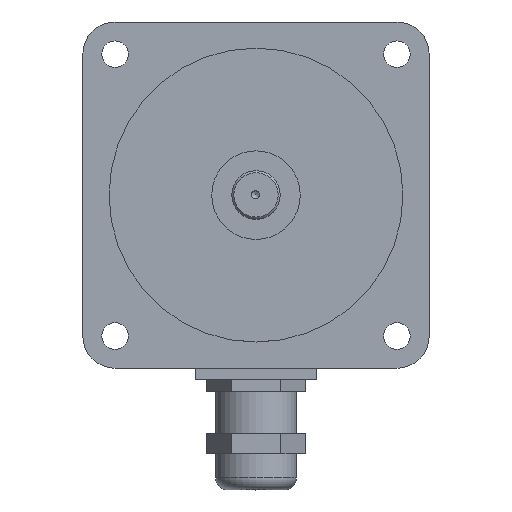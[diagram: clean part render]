
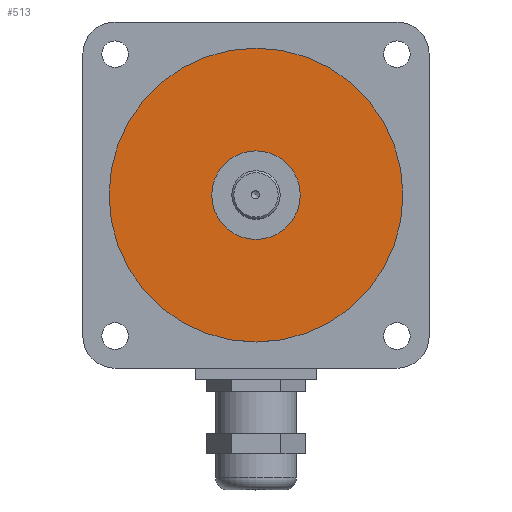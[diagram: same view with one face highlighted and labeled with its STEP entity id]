
A CAD part, top view. The second image highlights one B-rep face of the part: STEP entity #513.
In plain terms, the highlighted planar face has unit normal (0, 0, 1).
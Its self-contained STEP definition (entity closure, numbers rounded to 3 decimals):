
#450=CARTESIAN_POINT('',(-80.773,-89.811,117.505));
#451=VERTEX_POINT('',#450);
#452=CARTESIAN_POINT('',(-69.773,-89.811,117.505));
#453=DIRECTION('',(0.0,0.0,-1.0));
#454=DIRECTION('',(1.0,0.0,0.0));
#455=AXIS2_PLACEMENT_3D('',#452,#453,#454);
#456=CIRCLE('',#455,11.0);
#457=EDGE_CURVE('',#451,#451,#456,.T.);
#479=CARTESIAN_POINT('',(-106.273,-89.811,117.505));
#480=VERTEX_POINT('',#479);
#481=CARTESIAN_POINT('',(-69.773,-89.811,117.505));
#482=DIRECTION('',(0.0,0.0,-1.0));
#483=DIRECTION('',(1.0,0.0,0.0));
#484=AXIS2_PLACEMENT_3D('',#481,#482,#483);
#485=CIRCLE('',#484,36.5);
#486=EDGE_CURVE('',#480,#480,#485,.T.);
#502=CARTESIAN_POINT('',(-69.773,-89.811,117.505));
#503=DIRECTION('',(0.0,0.0,-1.0));
#504=DIRECTION('',(1.0,0.0,0.0));
#505=AXIS2_PLACEMENT_3D('',#502,#503,#504);
#506=PLANE('',#505);
#507=ORIENTED_EDGE('',*,*,#486,.F.);
#508=EDGE_LOOP('',(#507));
#509=FACE_OUTER_BOUND('',#508,.T.);
#510=ORIENTED_EDGE('',*,*,#457,.T.);
#511=EDGE_LOOP('',(#510));
#512=FACE_BOUND('',#511,.T.);
#513=ADVANCED_FACE('',(#509,#512),#506,.F.);
